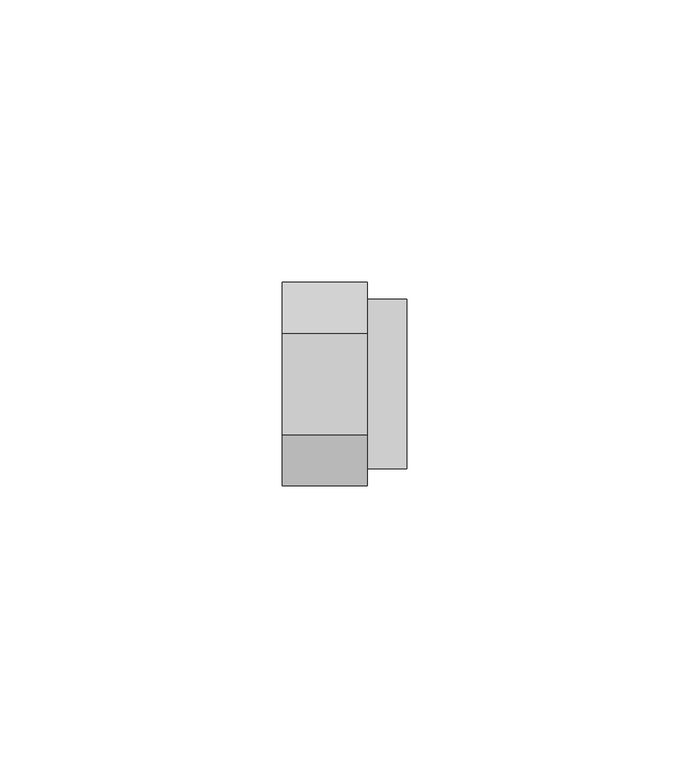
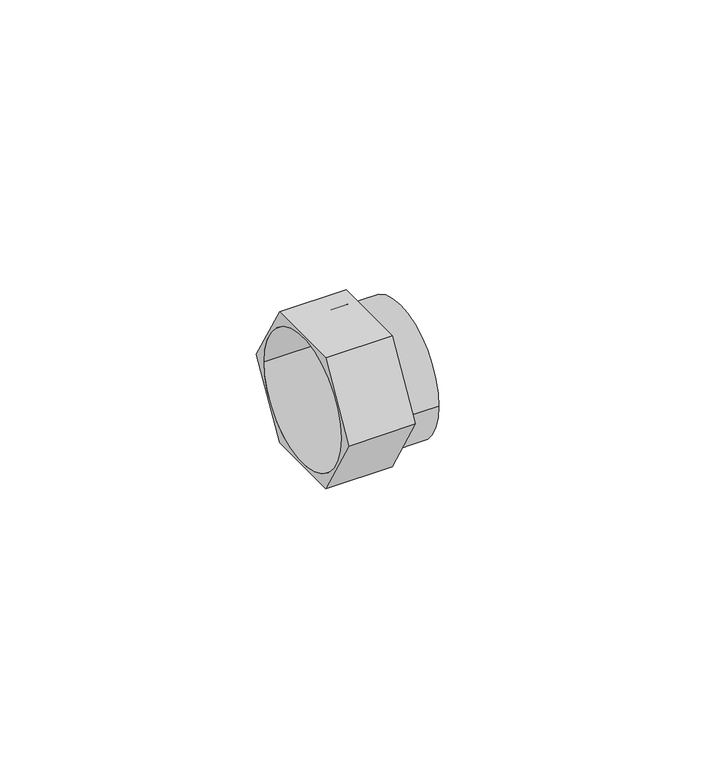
"""IFC4 building model written with IfcOpenShell, lengths in millimetres: pipe fitting geometry, БИР ПЕКС_КМП_Фитинг уплотнительный_Евроконус : Фитинг уплотнительный_Евроконус."""

from ifc_helpers import new_model, si_unit, point, frame, origin, origin_2d, place, context, project, spatial, polyline, circle_curve, trimmed, segment, composite_curve, outline, extrude, source, transform, mapped, element, save


def pipe_fitting_45a50b9d(model_context):
    return source(origin(), model_context, "Body", "SweptSolid", [
        extrude(outline(polyline([(-9.0, -15.5884573), (-18.0, 0.0), (-9.0, 15.5884573), (9.0, 15.5884573), (18.0, 0.0), (9.0, -15.5884573), (-9.0, -15.5884573)]), holes=[composite_curve([segment(trimmed(circle_curve(origin_2d(), 15.0), [point((-15.0, 0.0))], [point((15.0, 0.0))], True, "CARTESIAN"), True, "CONTINUOUS"), segment(trimmed(circle_curve(origin_2d(), 15.0), [point((15.0, 0.0))], [point((-15.0, 0.0))], True, "CARTESIAN"), True, "CONTINUOUS")], self_intersect=False)]), frame((-22.0, 0.0, 0.0), z_axis=(1.0, 0.0, 0.0), x_axis=(0.0, 1.0, 0.0)), (0.0, 0.0, 1.0), 15.0),
        extrude(outline(composite_curve([segment(trimmed(circle_curve(origin_2d(), 15.0), [point((-15.0, 0.0))], [point((15.0, 0.0))], False, "CARTESIAN"), True, "CONTINUOUS"), segment(trimmed(circle_curve(origin_2d(), 15.0), [point((15.0, 0.0))], [point((-15.0, 0.0))], False, "CARTESIAN"), True, "CONTINUOUS")], self_intersect=False), holes=[composite_curve([segment(trimmed(circle_curve(origin_2d(), 7.5), [point((-7.5, 0.0))], [point((7.5, 0.0))], True, "CARTESIAN"), True, "CONTINUOUS"), segment(trimmed(circle_curve(origin_2d(), 7.5), [point((7.5, 0.0))], [point((-7.5, 0.0))], True, "CARTESIAN"), True, "CONTINUOUS")], self_intersect=False)]), frame((-7.0, 0.0, 0.0), z_axis=(1.0, 0.0, 0.0), x_axis=(0.0, 1.0, 0.0)), (0.0, 0.0, 1.0), 7.0),
    ])


if __name__ == "__main__":
    model = new_model("IFC4")
    model_context = context("Model", 3, world=origin())
    ifc_project = project(units=[si_unit("LENGTHUNIT", "METRE", prefix="MILLI")], contexts=[model_context])
    site = spatial("IfcSite", under=ifc_project)
    building = spatial("IfcBuilding", under=site)
    placement = place(None, origin())
    pipe_fitting_shape = pipe_fitting_45a50b9d(model_context)
    element("IfcPipeFitting", 1, ObjectType="БИР ПЕКС_КМП_Фитинг уплотнительный_Евроконус : Фитинг уплотнительный_Евроконус", at=placement, inside=building, context=model_context, shape_type="MappedRepresentation", body=[
        mapped(pipe_fitting_shape, transform((0.0, 0.0, 0.0), x_axis=(1.0, 0.0, 0.0), y_axis=(0.0, 1.0, 0.0), z_axis=(0.0, 0.0, 1.0))),
    ])
    save(model, "model.ifc")
